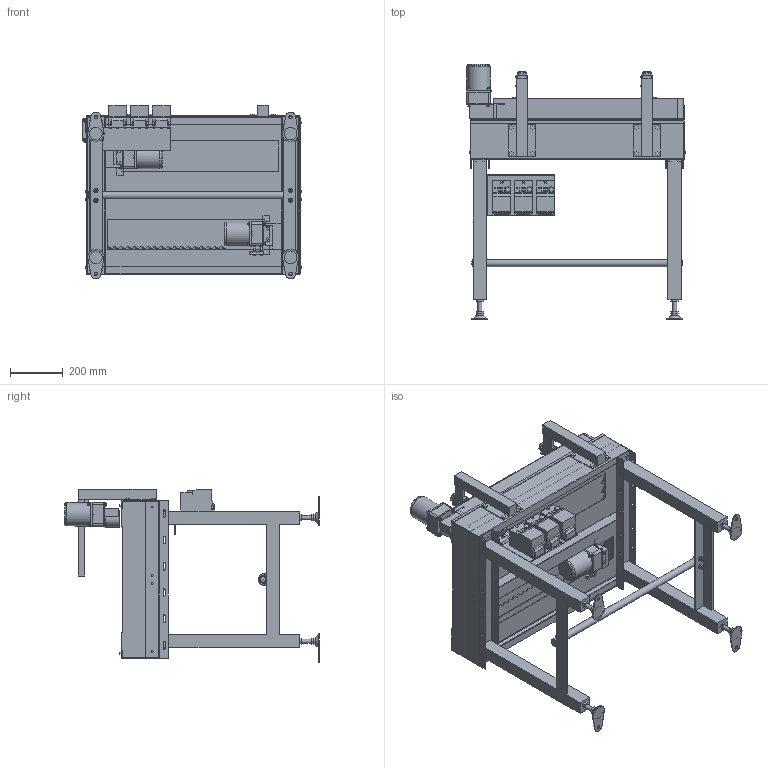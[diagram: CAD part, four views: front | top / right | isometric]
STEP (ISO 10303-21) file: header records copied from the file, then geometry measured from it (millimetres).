
FILE_DESCRIPTION( (''), '2;1');
FILE_NAME ('WEB-SGA-304x3-400-L-IVH-15-A.stp','2026-09-19T10:37:09',(''),(''),'spGate 21.9.5 (****-****-****-****)','','');
FILE_SCHEMA (('AUTOMOTIVE_DESIGN'));
Length unit declared in the file: millimetre
Products named in the file (91): WEB-SGA-304x3-400-L-IVH-15-A; TEMP_X_T-prt0; TEMP_X_T-prt1; TEMP_X_T-prt2; TEMP_X_T-prt3; TEMP_X_T-prt4; TEMP_X_T-prt5; TEMP_X_T-prt6; TEMP_X_T-prt7; TEMP_X_T-prt8; TEMP_X_T-prt9; TEMP_X_T-prt10; TEMP_X_T-prt11; TEMP_X_T-prt12; TEMP_X_T-prt13; TEMP_X_T-prt14; TEMP_X_T-prt15; TEMP_X_T-prt16; TEMP_X_T-prt17; TEMP_X_T-prt18; TEMP_X_T-prt19; TEMP_X_T-prt20; TEMP_X_T-prt21; TEMP_X_T-prt22; TEMP_X_T-prt23; TEMP_X_T-prt24; TEMP_X_T-prt25; TEMP_X_T-prt26; TEMP_X_T-prt27; TEMP_X_T-prt28; TEMP_X_T-prt29; TEMP_X_T-prt30; TEMP_X_T-prt31; TEMP_X_T-prt32; TEMP_X_T-prt33; TEMP_X_T-prt34; TEMP_X_T-prt35; TEMP_X_T-prt36; TEMP_X_T-prt37; TEMP_X_T-prt38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
Assembly tree (90 placements, depth 2):
  WEB-SGA-304x3-400-L-IVH-15-A
    TEMP_X_T-prt0
    TEMP_X_T-prt1
    TEMP_X_T-prt2
    TEMP_X_T-prt3
    TEMP_X_T-prt4
    TEMP_X_T-prt5
    TEMP_X_T-prt6
    TEMP_X_T-prt7
    TEMP_X_T-prt8
    TEMP_X_T-prt9
    TEMP_X_T-prt10
    TEMP_X_T-prt11
    TEMP_X_T-prt12
    TEMP_X_T-prt13
    TEMP_X_T-prt14
    TEMP_X_T-prt15
    TEMP_X_T-prt16
    TEMP_X_T-prt17
    TEMP_X_T-prt18
    TEMP_X_T-prt19
    TEMP_X_T-prt20
    TEMP_X_T-prt21
    TEMP_X_T-prt22
    TEMP_X_T-prt23
    TEMP_X_T-prt24
    TEMP_X_T-prt25
    TEMP_X_T-prt26
    TEMP_X_T-prt27
    TEMP_X_T-prt28
    TEMP_X_T-prt29
    TEMP_X_T-prt30
    TEMP_X_T-prt31
    TEMP_X_T-prt32
    TEMP_X_T-prt33
    TEMP_X_T-prt34
    TEMP_X_T-prt35
    TEMP_X_T-prt36
    TEMP_X_T-prt37
    TEMP_X_T-prt38
    TEMP_X_T-prt39
    TEMP_X_T-prt40
    TEMP_X_T-prt41
    TEMP_X_T-prt42
    TEMP_X_T-prt43
    TEMP_X_T-prt44
    TEMP_X_T-prt45
    TEMP_X_T-prt46
    TEMP_X_T-prt47
    TEMP_X_T-prt48
    TEMP_X_T-prt49
    TEMP_X_T-prt50
    TEMP_X_T-prt51
    TEMP_X_T-prt52
    TEMP_X_T-prt53
    TEMP_X_T-prt54
    TEMP_X_T-prt55
    TEMP_X_T-prt56
    TEMP_X_T-prt57
    TEMP_X_T-prt58
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Bounding box: 830.8 x 968.4 x 660 mm (x, y, z)
Volume: 24202537.9 mm3; surface area: 5429781.3 mm2
Topology: 90 solids, 91 shells, 2941 faces, 7609 edges, 5052 vertices
Faces by surface type: plane 2205, cylinder 514, bspline 214, sphere 8
Full cylindrical faces by diameter (mm): 2 x3, 3.3 x9, 4 x18, 5 x17, 5.5 x3, 6 x34, 6.5 x24, 6.6 x12, 7 x4, 8 x10, 8.49 x3, 9 x8, 10 x12, 10.5 x1, 11.5 x2, 12 x3, 12.2 x2, 12.5 x12, 13 x4, 16 x10, 17 x4, 20 x4, 22 x1, 27.2 x1, 28 x2, 36 x3, 40 x4, 50 x2, 83 x3, 84 x3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
Entity records: 157258 total; most frequent: CARTESIAN_POINT 22102, ORIENTED_EDGE 15174, DIRECTION 14505, COLOUR_RGB 10618, PRESENTATION_STYLE_ASSIGNMENT 10618, STYLED_ITEM 10618, EDGE_CURVE 7587, DRAUGHTING_PRE_DEFINED_CURVE_FONT 7587
